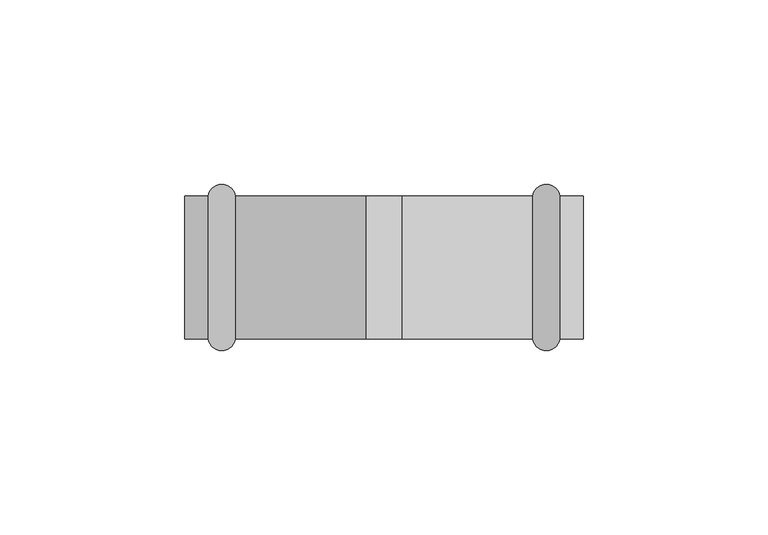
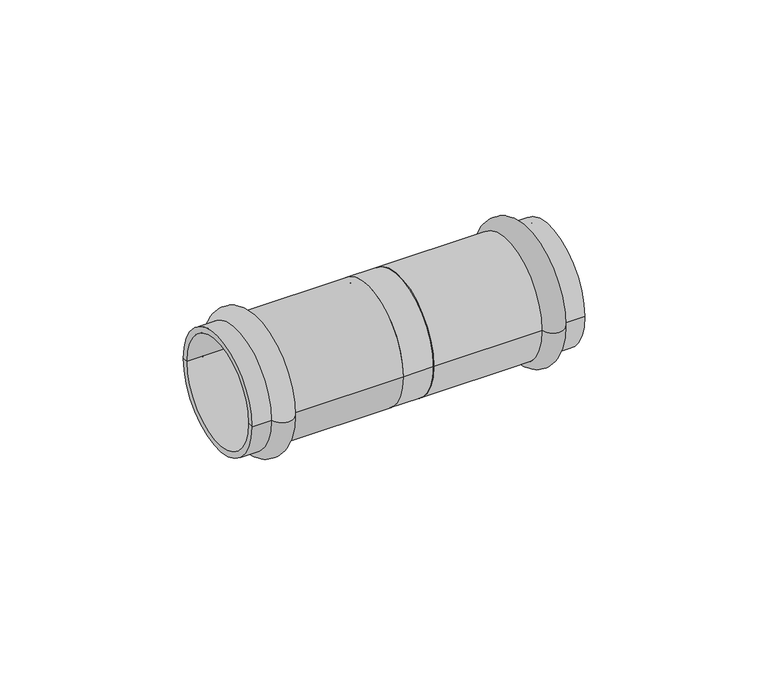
"""IFC4 building model written with IfcOpenShell, lengths in millimetres: pipe fitting geometry, VALTEC_VTi.904.I_Удлинитель_Нержавеющая сталь : VTi.904.I."""

from ifc_helpers import new_model, si_unit, point, frame, origin, origin_2d, place, context, project, spatial, polyline, circle_curve, ellipse_curve, trimmed, segment, composite_curve, outline, extrude, source, transform, mapped, element, save
from ifc_brep_helpers import plane_surface, cylinder_surface, revolved_surface, advanced_brep


def pipe_fitting_456d2f66(model_context):
    return source(origin(), model_context, "Body", "SolidModel", [
        advanced_brep(
        [(47.6432371, -19.4, 0.0), (40.2567629, -19.4, 0.0), (40.2567629, 19.4, 0.0), (47.6432371, 19.4, 0.0), (54.0, -19.4, 0.0), (54.0, 19.4, 0.0), (54.0, -17.5, 0.0), (54.0, 17.5, 0.0), (5.0, -17.5, 0.0), (5.0, 17.5, 0.0), (5.0, -19.4, 0.0), (5.0, 19.4, 0.0)],
        [
            (0, 1, circle_curve(frame((43.95, -18.75, 0.0), z_axis=(0.0, 0.0, -1.0), x_axis=(-1.0, 0.0, 0.0)), 3.75)),
            (1, 2, circle_curve(frame((40.2567629, 0.0, 0.0), z_axis=(1.0, 0.0, 0.0), x_axis=(0.0, 1.0, 0.0)), 19.4)),
            (2, 3, circle_curve(frame((43.95, 18.75, 0.0), z_axis=(0.0, 0.0, -1.0), x_axis=(-1.0, 0.0, 0.0)), 3.75)),
            (3, 0, circle_curve(frame((47.6432371, 0.0, 0.0), z_axis=(-1.0, 0.0, 0.0), x_axis=(0.0, 1.0, 0.0)), 19.4)),
            (2, 1, circle_curve(frame((40.2567629, 0.0, 0.0), z_axis=(1.0, 0.0, 0.0), x_axis=(0.0, 1.0, 0.0)), 19.4)),
            (0, 3, circle_curve(frame((47.6432371, 0.0, 0.0), z_axis=(-1.0, 0.0, 0.0), x_axis=(0.0, 1.0, 0.0)), 19.4)),
            (4, 0),
            (3, 5),
            (5, 4, circle_curve(frame((54.0, 0.0, 0.0), z_axis=(-1.0, 0.0, 0.0), x_axis=(0.0, 1.0, 0.0)), 19.4)),
            (4, 5, circle_curve(frame((54.0, 0.0, 0.0), z_axis=(-1.0, 0.0, 0.0), x_axis=(0.0, 1.0, 0.0)), 19.4)),
            (6, 4),
            (5, 7),
            (7, 6, circle_curve(frame((54.0, 0.0, 0.0), z_axis=(-1.0, 0.0, 0.0), x_axis=(0.0, 1.0, 0.0)), 17.5)),
            (6, 7, circle_curve(frame((54.0, 0.0, 0.0), z_axis=(-1.0, 0.0, 0.0), x_axis=(0.0, 1.0, 0.0)), 17.5)),
            (8, 6),
            (7, 9),
            (9, 8, circle_curve(frame((5.0, 0.0, 0.0), z_axis=(-1.0, 0.0, 0.0), x_axis=(0.0, 1.0, 0.0)), 17.5)),
            (8, 9, circle_curve(frame((5.0, 0.0, 0.0), z_axis=(-1.0, 0.0, 0.0), x_axis=(0.0, 1.0, 0.0)), 17.5)),
            (10, 8),
            (9, 11),
            (11, 10, circle_curve(frame((5.0, 0.0, 0.0), z_axis=(-1.0, 0.0, 0.0), x_axis=(0.0, 1.0, 0.0)), 19.4)),
            (10, 11, circle_curve(frame((5.0, 0.0, 0.0), z_axis=(-1.0, 0.0, 0.0), x_axis=(0.0, 1.0, 0.0)), 19.4)),
            (1, 10),
            (11, 2),
        ],
        [
            revolved_surface(trimmed(ellipse_curve(frame((43.95, 18.75, 0.0), z_axis=(0.0, 0.0, -1.0), x_axis=(-1.0, 0.0, 0.0)), 3.75, 3.75), [point((40.2567629, 19.4, 0.0))], [point((47.6432371, 19.4, 0.0))], True, "CARTESIAN"), (57.5364426, 0.0, 0.0), (1.0, 0.0, 0.0)),
            cylinder_surface(frame((57.5364426, 0.0, 0.0), z_axis=(1.0, 0.0, 0.0), x_axis=(0.0, 1.0, 0.0)), 19.4),
            plane_surface(frame((54.0, 0.0, 0.0), z_axis=(1.0, 0.0, 0.0), x_axis=(0.0, 1.0, 0.0))),
            revolved_surface(polyline([(54.0, 17.5, 0.0), (5.0, 17.5, 0.0)]), (57.5364426, 0.0, 0.0), (1.0, 0.0, 0.0)),
            plane_surface(frame((5.0, 0.0, 0.0), z_axis=(-1.0, 0.0, 0.0), x_axis=(0.0, 1.0, 0.0))),
        ],
        [
            (0, [[1, 2, 3, 4]]),
            (0, [[-3, 5, -1, 6]]),
            (1, [[7, -4, 8, 9]]),
            (1, [[-8, -6, -7, 10]]),
            (2, [[11, -9, 12, 13]]),
            (2, [[-12, -10, -11, 14]]),
            (3, [[15, -13, 16, 17]]),
            (3, [[-16, -14, -15, 18]]),
            (4, [[19, -17, 20, 21]]),
            (4, [[-20, -18, -19, 22]]),
            (1, [[23, -21, 24, -2]]),
            (1, [[-24, -22, -23, -5]]),
        ],
    ),
        advanced_brep(
        [(-47.6432371, -19.4, 0.0), (-47.6432371, 19.4, 0.0), (-40.2567629, 19.4, 0.0), (-40.2567629, -19.4, 0.0), (-54.0, -19.4, 0.0), (-54.0, 19.4, 0.0), (-54.0, -17.5, 0.0), (-54.0, 17.5, 0.0), (-5.0, -17.5, 0.0), (-5.0, 17.5, 0.0), (-5.0, -19.4, 0.0), (-5.0, 19.4, 0.0)],
        [
            (0, 1, circle_curve(frame((-47.6432371, 0.0, 0.0), z_axis=(1.0, 0.0, 0.0), x_axis=(0.0, 1.0, 0.0)), 19.4)),
            (1, 2, circle_curve(frame((-43.95, 18.75, 0.0), z_axis=(0.0, 0.0, -1.0), x_axis=(1.0, 0.0, 0.0)), 3.75)),
            (2, 3, circle_curve(frame((-40.2567629, 0.0, 0.0), z_axis=(-1.0, 0.0, 0.0), x_axis=(0.0, 1.0, 0.0)), 19.4)),
            (3, 0, circle_curve(frame((-43.95, -18.75, 0.0), z_axis=(0.0, 0.0, -1.0), x_axis=(1.0, 0.0, 0.0)), 3.75)),
            (1, 0, circle_curve(frame((-47.6432371, 0.0, 0.0), z_axis=(1.0, 0.0, 0.0), x_axis=(0.0, 1.0, 0.0)), 19.4)),
            (3, 2, circle_curve(frame((-40.2567629, 0.0, 0.0), z_axis=(-1.0, 0.0, 0.0), x_axis=(0.0, 1.0, 0.0)), 19.4)),
            (4, 5, circle_curve(frame((-54.0, 0.0, 0.0), z_axis=(1.0, 0.0, 0.0), x_axis=(0.0, 1.0, 0.0)), 19.4)),
            (5, 1),
            (0, 4),
            (5, 4, circle_curve(frame((-54.0, 0.0, 0.0), z_axis=(1.0, 0.0, 0.0), x_axis=(0.0, 1.0, 0.0)), 19.4)),
            (6, 7, circle_curve(frame((-54.0, 0.0, 0.0), z_axis=(1.0, 0.0, 0.0), x_axis=(0.0, 1.0, 0.0)), 17.5)),
            (7, 5),
            (4, 6),
            (7, 6, circle_curve(frame((-54.0, 0.0, 0.0), z_axis=(1.0, 0.0, 0.0), x_axis=(0.0, 1.0, 0.0)), 17.5)),
            (8, 9, circle_curve(frame((-5.0, 0.0, 0.0), z_axis=(1.0, 0.0, 0.0), x_axis=(0.0, 1.0, 0.0)), 17.5)),
            (9, 7),
            (6, 8),
            (9, 8, circle_curve(frame((-5.0, 0.0, 0.0), z_axis=(1.0, 0.0, 0.0), x_axis=(0.0, 1.0, 0.0)), 17.5)),
            (10, 11, circle_curve(frame((-5.0, 0.0, 0.0), z_axis=(1.0, 0.0, 0.0), x_axis=(0.0, 1.0, 0.0)), 19.4)),
            (11, 9),
            (8, 10),
            (11, 10, circle_curve(frame((-5.0, 0.0, 0.0), z_axis=(1.0, 0.0, 0.0), x_axis=(0.0, 1.0, 0.0)), 19.4)),
            (2, 11),
            (10, 3),
        ],
        [
            revolved_surface(trimmed(ellipse_curve(frame((-43.95, 18.75, 0.0), z_axis=(0.0, 0.0, 1.0), x_axis=(1.0, 0.0, 0.0)), 3.75, 3.75), [point((-40.2567629, 19.4, 0.0))], [point((-47.6432371, 19.4, 0.0))], True, "CARTESIAN"), (-57.5364426, 0.0, 0.0), (-1.0, 0.0, 0.0)),
            cylinder_surface(frame((-57.5364426, 0.0, 0.0), z_axis=(-1.0, 0.0, 0.0), x_axis=(0.0, 1.0, 0.0)), 19.4),
            plane_surface(frame((-54.0, 0.0, 0.0), z_axis=(-1.0, 0.0, 0.0), x_axis=(0.0, 1.0, 0.0))),
            revolved_surface(polyline([(-54.0, 17.5, 0.0), (-5.0, 17.5, 0.0)]), (-57.5364426, 0.0, 0.0), (-1.0, 0.0, 0.0)),
            plane_surface(frame((-5.0, 0.0, 0.0), z_axis=(1.0, 0.0, 0.0), x_axis=(0.0, 1.0, 0.0))),
        ],
        [
            (0, [[1, 2, 3, 4]]),
            (0, [[5, -4, 6, -2]]),
            (1, [[7, 8, -1, 9]]),
            (1, [[10, -9, -5, -8]]),
            (2, [[11, 12, -7, 13]]),
            (2, [[14, -13, -10, -12]]),
            (3, [[15, 16, -11, 17]]),
            (3, [[18, -17, -14, -16]]),
            (4, [[19, 20, -15, 21]]),
            (4, [[22, -21, -18, -20]]),
            (1, [[-3, 23, -19, 24]]),
            (1, [[-6, -24, -22, -23]]),
        ],
    ),
        extrude(outline(composite_curve([segment(trimmed(circle_curve(origin_2d(), 19.4), [point((-19.4, 0.0))], [point((19.4, 0.0))], False, "CARTESIAN"), True, "CONTINUOUS"), segment(trimmed(circle_curve(origin_2d(), 19.4), [point((19.4, 0.0))], [point((-19.4, 0.0))], False, "CARTESIAN"), True, "CONTINUOUS")], self_intersect=False), holes=[composite_curve([segment(trimmed(circle_curve(origin_2d(), 17.5), [point((-17.5, 0.0))], [point((17.5, 0.0))], True, "CARTESIAN"), True, "CONTINUOUS"), segment(trimmed(circle_curve(origin_2d(), 17.5), [point((17.5, 0.0))], [point((-17.5, 0.0))], True, "CARTESIAN"), True, "CONTINUOUS")], self_intersect=False)]), frame((-5.0, 0.0, 0.0), z_axis=(1.0, 0.0, 0.0), x_axis=(0.0, 1.0, 0.0)), (0.0, 0.0, 1.0), 10.0),
    ])


if __name__ == "__main__":
    model = new_model("IFC4")
    model_context = context("Model", 3, world=origin())
    ifc_project = project(units=[si_unit("LENGTHUNIT", "METRE", prefix="MILLI")], contexts=[model_context])
    site = spatial("IfcSite", under=ifc_project)
    building = spatial("IfcBuilding", under=site)
    placement = place(None, origin())
    pipe_fitting_shape = pipe_fitting_456d2f66(model_context)
    element("IfcPipeFitting", 1, ObjectType="VALTEC_VTi.904.I_Удлинитель_Нержавеющая сталь : VTi.904.I", at=placement, inside=building, context=model_context, shape_type="MappedRepresentation", body=[
        mapped(pipe_fitting_shape, transform((0.0, 0.0, 0.0), x_axis=(1.0, 0.0, 0.0), y_axis=(0.0, 1.0, 0.0), z_axis=(0.0, 0.0, 1.0))),
    ])
    save(model, "model.ifc")
